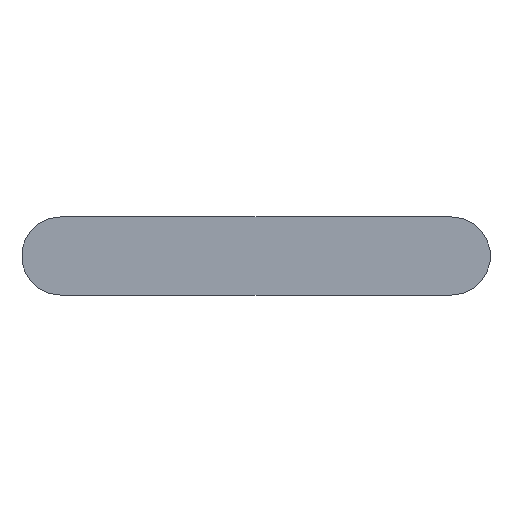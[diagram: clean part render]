
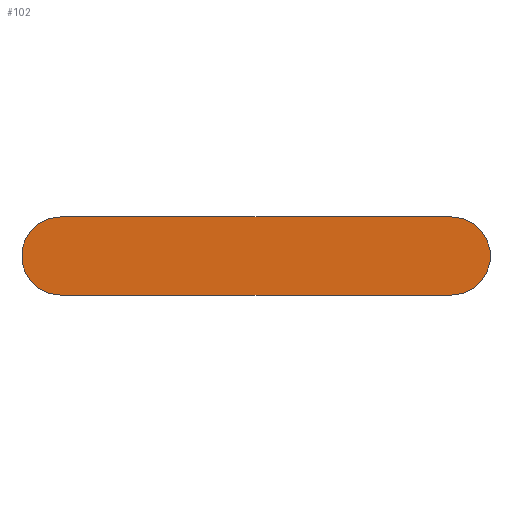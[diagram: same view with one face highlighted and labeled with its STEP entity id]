
A CAD part, front view. The second image highlights one B-rep face of the part: STEP entity #102.
In plain terms, the highlighted planar face has unit normal (0, -1, 0).
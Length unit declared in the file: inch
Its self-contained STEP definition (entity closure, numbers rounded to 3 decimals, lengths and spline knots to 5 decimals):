
#15=CIRCLE('',#119,0.0465);
#17=CIRCLE('',#123,0.0465);
#26=FACE_OUTER_BOUND('',#32,.T.);
#32=EDGE_LOOP('',(#89,#90,#91,#92));
#33=LINE('',#161,#41);
#38=LINE('',#175,#46);
#41=VECTOR('',#131,0.3937);
#46=VECTOR('',#144,0.3937);
#49=VERTEX_POINT('',#159);
#50=VERTEX_POINT('',#160);
#53=VERTEX_POINT('',#168);
#55=VERTEX_POINT('',#174);
#57=EDGE_CURVE('',#49,#50,#33,.T.);
#61=EDGE_CURVE('',#53,#49,#15,.T.);
#64=EDGE_CURVE('',#55,#53,#38,.T.);
#67=EDGE_CURVE('',#50,#55,#17,.T.);
#89=ORIENTED_EDGE('',*,*,#67,.F.);
#90=ORIENTED_EDGE('',*,*,#57,.F.);
#91=ORIENTED_EDGE('',*,*,#61,.F.);
#92=ORIENTED_EDGE('',*,*,#64,.F.);
#96=PLANE('',#126);
#102=ADVANCED_FACE('',(#26),#96,.F.);
#119=AXIS2_PLACEMENT_3D('',#169,#137,#138);
#123=AXIS2_PLACEMENT_3D('',#180,#149,#150);
#126=AXIS2_PLACEMENT_3D('',#183,#155,#156);
#131=DIRECTION('',(-1.,0.,0.));
#137=DIRECTION('center_axis',(0.,1.,0.));
#138=DIRECTION('ref_axis',(0.,0.,1.));
#144=DIRECTION('',(1.,0.,0.));
#149=DIRECTION('center_axis',(0.,1.,0.));
#150=DIRECTION('ref_axis',(0.,0.,-1.));
#155=DIRECTION('center_axis',(0.,1.,0.));
#156=DIRECTION('ref_axis',(1.,0.,0.));
#159=CARTESIAN_POINT('',(0.5105,0.,-0.0465));
#160=CARTESIAN_POINT('',(0.0465,0.,-0.0465));
#161=CARTESIAN_POINT('',(0.5105,0.,-0.0465));
#168=CARTESIAN_POINT('',(0.5105,0.,0.0465));
#169=CARTESIAN_POINT('Origin',(0.5105,0.,0.));
#174=CARTESIAN_POINT('',(0.0465,0.,0.0465));
#175=CARTESIAN_POINT('',(0.0465,0.,0.0465));
#180=CARTESIAN_POINT('Origin',(0.0465,0.,0.));
#183=CARTESIAN_POINT('Origin',(0.2785,0.,0.));
